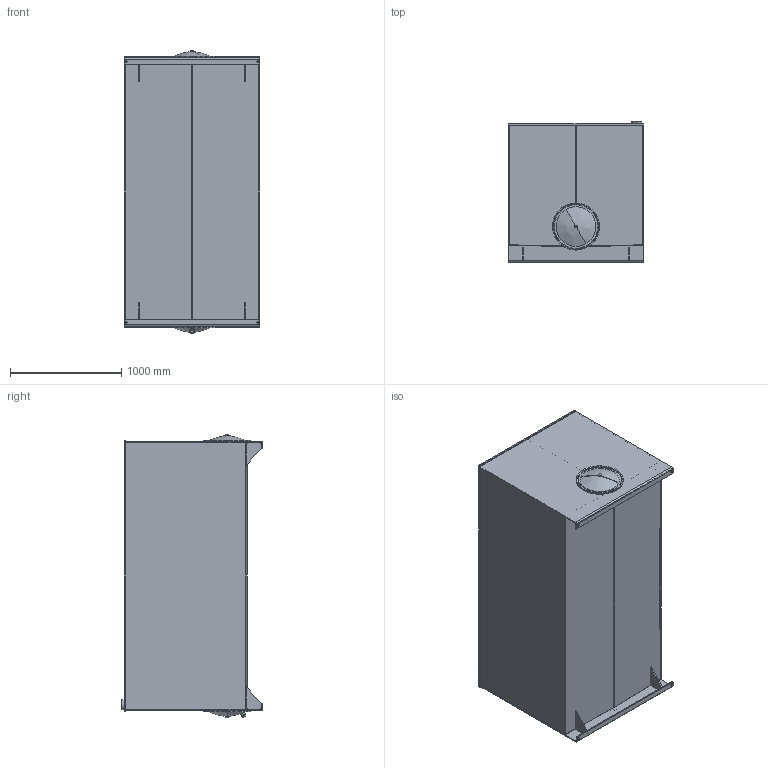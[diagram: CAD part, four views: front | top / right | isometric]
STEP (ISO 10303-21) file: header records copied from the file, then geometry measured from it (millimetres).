
FILE_DESCRIPTION (( 'STEP AP214' ), '1' );
FILE_NAME ('T1-700.STEP', '2021-11-02T12:49:16', ( '' ), ( '' ), 'SwSTEP 2.0', 'SolidWorks 2013', '' );
FILE_SCHEMA (( 'AUTOMOTIVE_DESIGN' ));
Length unit declared in the file: inch
Products named in the file (18): TL-EC-16; CRUSH WASHER; T1-700; 16.00 END COVER WITH DRAIN; T1-700-LD; T1-700-EB; 0.625 - 11 HEX BOLT; 16.00 GASKET; 0.625 - 11 BAFFLE NUT; T1-700-GST; 16.00 END COVER; T1-700-EA; DRAIN; T1-700-BFL; TL-ECD-16; T1-700-BDYA; T1-700-BDYB; FILLER RISER
Assembly tree (25 placements, depth 3):
  T1-700
    T1-700-BDYA
    T1-700-BDYB  x2
    T1-700-EA
    T1-700-EB
    T1-700-BFL
    T1-700-LD
    FILLER RISER
    T1-700-GST  x4
    TL-ECD-16
      16.00 GASKET
      CRUSH WASHER
      0.625 - 11 HEX BOLT
      0.625 - 11 BAFFLE NUT
      16.00 END COVER WITH DRAIN
      DRAIN
    TL-EC-16
      16.00 END COVER
      16.00 GASKET
      CRUSH WASHER
      0.625 - 11 HEX BOLT
      0.625 - 11 BAFFLE NUT
Bounding box: 1219.3 x 1270 x 2547.61 mm (x, y, z)
Volume: 118519592.1 mm3; surface area: 34387111.3 mm2
Topology: 24 solids, 24 shells, 290 faces, 668 edges, 434 vertices
Faces by surface type: plane 165, cylinder 105, cone 10, bspline 8, torus 2
Entity records: 8371 total; most frequent: CARTESIAN_POINT 1433, DIRECTION 1198, ORIENTED_EDGE 1036, EDGE_CURVE 518, AXIS2_PLACEMENT_3D 449, VERTEX_POINT 334, LINE 300, VECTOR 300
